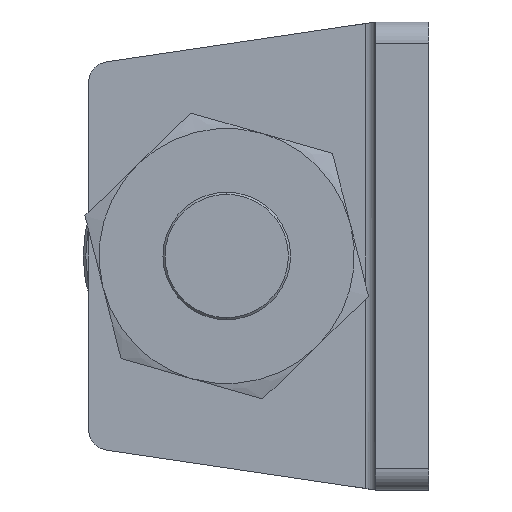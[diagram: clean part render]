
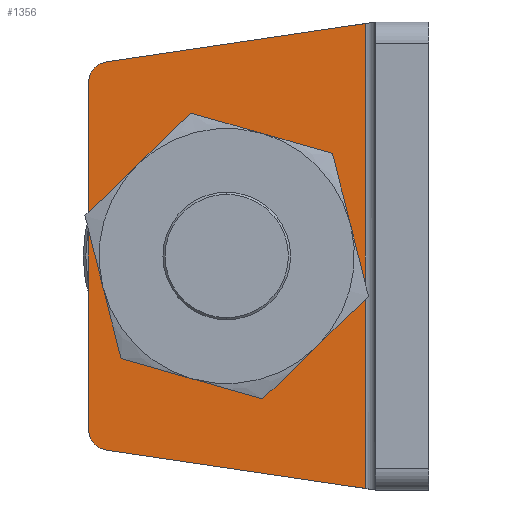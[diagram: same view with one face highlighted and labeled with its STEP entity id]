
A CAD part, left-side view. The second image highlights one B-rep face of the part: STEP entity #1356.
In plain terms, the highlighted planar face has unit normal (-1, 0, 0).
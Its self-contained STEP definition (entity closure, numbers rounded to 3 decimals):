
#103 = VECTOR ( 'NONE', #722, 1000. ) ;
#177 = EDGE_LOOP ( 'NONE', ( #1285, #277, #1407, #371, #2406, #2064 ) ) ;
#277 = ORIENTED_EDGE ( 'NONE', *, *, #2492, .T. ) ;
#353 = CARTESIAN_POINT ( 'NONE',  ( -5., 5.979, 21.855 ) ) ;
#371 = ORIENTED_EDGE ( 'NONE', *, *, #2244, .T. ) ;
#382 = DIRECTION ( 'NONE',  ( 0., 1., 0. ) ) ;
#394 = VECTOR ( 'NONE', #810, 1000. ) ;
#436 = VERTEX_POINT ( 'NONE', #543 ) ;
#439 = VERTEX_POINT ( 'NONE', #2265 ) ;
#449 = EDGE_CURVE ( 'NONE', #729, #501, #2977, .T. ) ;
#471 = CARTESIAN_POINT ( 'NONE',  ( -5., 6., 22. ) ) ;
#497 = VERTEX_POINT ( 'NONE', #2387 ) ;
#501 = VERTEX_POINT ( 'NONE', #3037 ) ;
#543 = CARTESIAN_POINT ( 'NONE',  ( -5., 19., -6. ) ) ;
#652 = EDGE_CURVE ( 'NONE', #439, #1630, #961, .T. ) ;
#722 = DIRECTION ( 'NONE',  ( 0., 0., -1. ) ) ;
#729 = VERTEX_POINT ( 'NONE', #1600 ) ;
#735 = EDGE_CURVE ( 'NONE', #436, #497, #1292, .T. ) ;
#774 = PLANE ( 'NONE',  #1896 ) ;
#781 = ORIENTED_EDGE ( 'NONE', *, *, #735, .T. ) ;
#809 = VECTOR ( 'NONE', #2435, 1000. ) ;
#810 = DIRECTION ( 'NONE',  ( 0., 0.989, -0.147 ) ) ;
#872 = FACE_BOUND ( 'NONE', #2963, .T. ) ;
#888 = AXIS2_PLACEMENT_3D ( 'NONE', #2632, #1148, #2030 ) ;
#897 = CARTESIAN_POINT ( 'NONE',  ( -5., 12.357, -20.91 ) ) ;
#953 = VECTOR ( 'NONE', #2028, 1000. ) ;
#961 = LINE ( 'NONE', #353, #394 ) ;
#1056 = EDGE_CURVE ( 'NONE', #497, #436, #1770, .T. ) ;
#1111 = CARTESIAN_POINT ( 'NONE',  ( -5., 6., -21.852 ) ) ;
#1148 = DIRECTION ( 'NONE',  ( -1., 0., 0. ) ) ;
#1194 = EDGE_CURVE ( 'NONE', #439, #3004, #1983, .T. ) ;
#1217 = AXIS2_PLACEMENT_3D ( 'NONE', #1861, #2761, #382 ) ;
#1231 = AXIS2_PLACEMENT_3D ( 'NONE', #2727, #2938, #1832 ) ;
#1263 = CARTESIAN_POINT ( 'NONE',  ( -5., 19., 0. ) ) ;
#1285 = ORIENTED_EDGE ( 'NONE', *, *, #652, .T. ) ;
#1292 = CIRCLE ( 'NONE', #2119, 6. ) ;
#1356 = ADVANCED_FACE ( 'NONE', ( #872, #2147 ), #774, .F. ) ;
#1407 = ORIENTED_EDGE ( 'NONE', *, *, #449, .T. ) ;
#1588 = CARTESIAN_POINT ( 'NONE',  ( -5., 32., 22. ) ) ;
#1600 = CARTESIAN_POINT ( 'NONE',  ( -5., 32., 16.274 ) ) ;
#1630 = VERTEX_POINT ( 'NONE', #2819 ) ;
#1761 = CIRCLE ( 'NONE', #1217, 2. ) ;
#1770 = CIRCLE ( 'NONE', #1231, 6. ) ;
#1782 = CARTESIAN_POINT ( 'NONE',  ( -5., 6., 22. ) ) ;
#1832 = DIRECTION ( 'NONE',  ( 0., 1., 0. ) ) ;
#1861 = CARTESIAN_POINT ( 'NONE',  ( -5., 30., -16.274 ) ) ;
#1877 = CIRCLE ( 'NONE', #888, 2. ) ;
#1896 = AXIS2_PLACEMENT_3D ( 'NONE', #471, #2499, #2894 ) ;
#1919 = EDGE_CURVE ( 'NONE', #2607, #3004, #2686, .T. ) ;
#1983 = LINE ( 'NONE', #1782, #103 ) ;
#2028 = DIRECTION ( 'NONE',  ( 0., 0., -1. ) ) ;
#2030 = DIRECTION ( 'NONE',  ( 0., 1., 0. ) ) ;
#2064 = ORIENTED_EDGE ( 'NONE', *, *, #1194, .F. ) ;
#2119 = AXIS2_PLACEMENT_3D ( 'NONE', #1263, #2591, #3049 ) ;
#2147 = FACE_OUTER_BOUND ( 'NONE', #177, .T. ) ;
#2244 = EDGE_CURVE ( 'NONE', #501, #2607, #1761, .T. ) ;
#2265 = CARTESIAN_POINT ( 'NONE',  ( -5., 6., 21.852 ) ) ;
#2273 = CARTESIAN_POINT ( 'NONE',  ( -5., 30.293, -18.253 ) ) ;
#2387 = CARTESIAN_POINT ( 'NONE',  ( -5., 19., 6. ) ) ;
#2406 = ORIENTED_EDGE ( 'NONE', *, *, #1919, .T. ) ;
#2435 = DIRECTION ( 'NONE',  ( 0., -0.989, -0.147 ) ) ;
#2492 = EDGE_CURVE ( 'NONE', #1630, #729, #1877, .T. ) ;
#2499 = DIRECTION ( 'NONE',  ( 1., 0., 0. ) ) ;
#2591 = DIRECTION ( 'NONE',  ( 1., 0., 0. ) ) ;
#2607 = VERTEX_POINT ( 'NONE', #2273 ) ;
#2632 = CARTESIAN_POINT ( 'NONE',  ( -5., 30., 16.274 ) ) ;
#2652 = ORIENTED_EDGE ( 'NONE', *, *, #1056, .T. ) ;
#2686 = LINE ( 'NONE', #897, #809 ) ;
#2727 = CARTESIAN_POINT ( 'NONE',  ( -5., 19., 0. ) ) ;
#2761 = DIRECTION ( 'NONE',  ( -1., 0., 0. ) ) ;
#2819 = CARTESIAN_POINT ( 'NONE',  ( -5., 30.293, 18.253 ) ) ;
#2894 = DIRECTION ( 'NONE',  ( 0., 1., 0. ) ) ;
#2938 = DIRECTION ( 'NONE',  ( 1., 0., 0. ) ) ;
#2963 = EDGE_LOOP ( 'NONE', ( #2652, #781 ) ) ;
#2977 = LINE ( 'NONE', #1588, #953 ) ;
#3004 = VERTEX_POINT ( 'NONE', #1111 ) ;
#3037 = CARTESIAN_POINT ( 'NONE',  ( -5., 32., -16.274 ) ) ;
#3049 = DIRECTION ( 'NONE',  ( 0., 1., 0. ) ) ;
